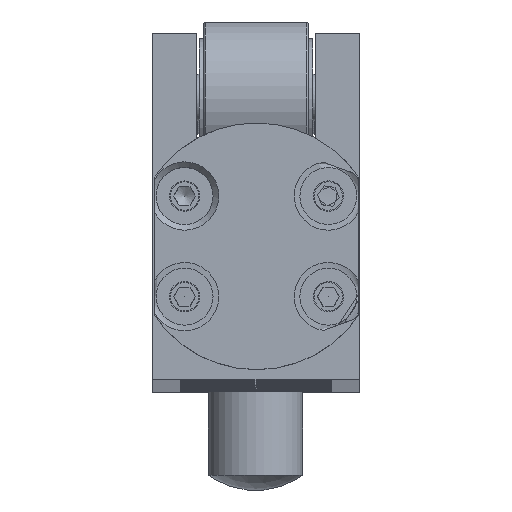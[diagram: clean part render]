
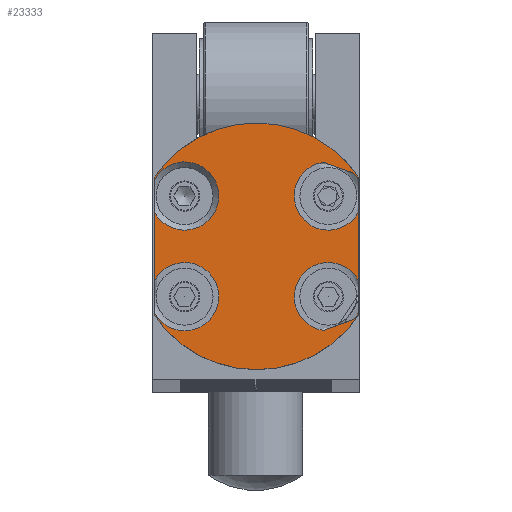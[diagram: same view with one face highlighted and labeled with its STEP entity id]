
A CAD part, top view. The second image highlights one B-rep face of the part: STEP entity #23333.
In plain terms, the highlighted planar face has unit normal (0, 0, 1).
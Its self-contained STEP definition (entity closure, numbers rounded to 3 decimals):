
#1990=LINE('',#42790,#2854);
#1991=LINE('',#42793,#2855);
#1992=LINE('',#42797,#2856);
#1993=LINE('',#42801,#2857);
#1994=LINE('',#42805,#2858);
#1995=LINE('',#42809,#2859);
#1996=LINE('',#42813,#2860);
#1997=LINE('',#42816,#2861);
#2854=VECTOR('',#32718,10.);
#2855=VECTOR('',#32721,10.);
#2856=VECTOR('',#32724,10.);
#2857=VECTOR('',#32727,10.);
#2858=VECTOR('',#32730,10.);
#2859=VECTOR('',#32733,10.);
#2860=VECTOR('',#32736,10.);
#2861=VECTOR('',#32739,10.);
#3285=PLANE('',#26174);
#4216=FACE_OUTER_BOUND('',#5618,.T.);
#5618=EDGE_LOOP('',(#19213,#19214,#19215,#19216,#19217,#19218,#19219,#19220,
#19221,#19222,#19223,#19224,#19225,#19226,#19227,#19228));
#7634=CIRCLE('',#26168,3.6);
#7637=CIRCLE('',#26171,3.6);
#7638=CIRCLE('',#26175,3.6);
#7639=CIRCLE('',#26176,3.6);
#7640=CIRCLE('',#26177,13.);
#7641=CIRCLE('',#26178,3.6);
#7642=CIRCLE('',#26179,3.6);
#7643=CIRCLE('',#26180,13.);
#10090=VERTEX_POINT('',#42766);
#10091=VERTEX_POINT('',#42767);
#10092=VERTEX_POINT('',#42771);
#10096=VERTEX_POINT('',#42782);
#10097=VERTEX_POINT('',#42792);
#10098=VERTEX_POINT('',#42794);
#10099=VERTEX_POINT('',#42796);
#10100=VERTEX_POINT('',#42798);
#10101=VERTEX_POINT('',#42800);
#10102=VERTEX_POINT('',#42802);
#10103=VERTEX_POINT('',#42804);
#10104=VERTEX_POINT('',#42806);
#10105=VERTEX_POINT('',#42808);
#10106=VERTEX_POINT('',#42810);
#10107=VERTEX_POINT('',#42812);
#10108=VERTEX_POINT('',#42814);
#13293=EDGE_CURVE('',#10092,#10090,#7634,.T.);
#13299=EDGE_CURVE('',#10091,#10096,#7637,.T.);
#13301=EDGE_CURVE('',#10096,#10092,#1990,.T.);
#13302=EDGE_CURVE('',#10090,#10097,#1991,.T.);
#13303=EDGE_CURVE('',#10097,#10098,#7638,.T.);
#13304=EDGE_CURVE('',#10098,#10099,#1992,.T.);
#13305=EDGE_CURVE('',#10099,#10100,#7639,.T.);
#13306=EDGE_CURVE('',#10100,#10101,#1993,.T.);
#13307=EDGE_CURVE('',#10102,#10101,#7640,.T.);
#13308=EDGE_CURVE('',#10102,#10103,#1994,.T.);
#13309=EDGE_CURVE('',#10103,#10104,#7641,.T.);
#13310=EDGE_CURVE('',#10104,#10105,#1995,.T.);
#13311=EDGE_CURVE('',#10105,#10106,#7642,.T.);
#13312=EDGE_CURVE('',#10106,#10107,#1996,.T.);
#13313=EDGE_CURVE('',#10108,#10107,#7643,.T.);
#13314=EDGE_CURVE('',#10108,#10091,#1997,.T.);
#19213=ORIENTED_EDGE('',*,*,#13299,.T.);
#19214=ORIENTED_EDGE('',*,*,#13301,.T.);
#19215=ORIENTED_EDGE('',*,*,#13293,.T.);
#19216=ORIENTED_EDGE('',*,*,#13302,.T.);
#19217=ORIENTED_EDGE('',*,*,#13303,.T.);
#19218=ORIENTED_EDGE('',*,*,#13304,.T.);
#19219=ORIENTED_EDGE('',*,*,#13305,.T.);
#19220=ORIENTED_EDGE('',*,*,#13306,.T.);
#19221=ORIENTED_EDGE('',*,*,#13307,.F.);
#19222=ORIENTED_EDGE('',*,*,#13308,.T.);
#19223=ORIENTED_EDGE('',*,*,#13309,.T.);
#19224=ORIENTED_EDGE('',*,*,#13310,.T.);
#19225=ORIENTED_EDGE('',*,*,#13311,.T.);
#19226=ORIENTED_EDGE('',*,*,#13312,.T.);
#19227=ORIENTED_EDGE('',*,*,#13313,.F.);
#19228=ORIENTED_EDGE('',*,*,#13314,.T.);
#23333=ADVANCED_FACE('',(#4216),#3285,.T.);
#26168=AXIS2_PLACEMENT_3D('',#42772,#32704,#32705);
#26171=AXIS2_PLACEMENT_3D('',#42786,#32711,#32712);
#26174=AXIS2_PLACEMENT_3D('',#42791,#32719,#32720);
#26175=AXIS2_PLACEMENT_3D('',#42795,#32722,#32723);
#26176=AXIS2_PLACEMENT_3D('',#42799,#32725,#32726);
#26177=AXIS2_PLACEMENT_3D('',#42803,#32728,#32729);
#26178=AXIS2_PLACEMENT_3D('',#42807,#32731,#32732);
#26179=AXIS2_PLACEMENT_3D('',#42811,#32734,#32735);
#26180=AXIS2_PLACEMENT_3D('',#42815,#32737,#32738);
#32704=DIRECTION('center_axis',(0.,0.,
-1.));
#32705=DIRECTION('ref_axis',(-0.342,0.94,0.));
#32711=DIRECTION('center_axis',(0.,0.,
-1.));
#32712=DIRECTION('ref_axis',(-0.342,0.94,0.));
#32718=DIRECTION('',(-0.94,-0.342,0.));
#32719=DIRECTION('center_axis',(0.,0.,
1.));
#32720=DIRECTION('ref_axis',(1.,0.,0.));
#32721=DIRECTION('',(0.,1.,0.));
#32722=DIRECTION('center_axis',(0.,0.,
-1.));
#32723=DIRECTION('ref_axis',(-0.342,-0.94,0.));
#32724=DIRECTION('',(0.94,-0.342,0.));
#32725=DIRECTION('center_axis',(0.,0.,
-1.));
#32726=DIRECTION('ref_axis',(-0.342,-0.94,0.));
#32727=DIRECTION('',(0.,1.,0.));
#32728=DIRECTION('center_axis',(0.,0.,
-1.));
#32729=DIRECTION('ref_axis',(0.,1.,0.));
#32730=DIRECTION('',(0.,-1.,0.));
#32731=DIRECTION('center_axis',(0.,0.,
-1.));
#32732=DIRECTION('ref_axis',(1.,0.,0.));
#32733=DIRECTION('',(0.,-1.,0.));
#32734=DIRECTION('center_axis',(0.,0.,
-1.));
#32735=DIRECTION('ref_axis',(1.,0.,0.));
#32736=DIRECTION('',(0.,-1.,0.));
#32737=DIRECTION('center_axis',(0.,0.,
-1.));
#32738=DIRECTION('ref_axis',(0.,1.,0.));
#32739=DIRECTION('',(0.,1.,0.));
#42766=CARTESIAN_POINT('',(10.8,-7.855,406.));
#42767=CARTESIAN_POINT('',(10.8,-11.256,406.));
#42771=CARTESIAN_POINT('',(7.114,-13.119,406.));
#42772=CARTESIAN_POINT('Origin',(7.627,-9.556,406.));
#42782=CARTESIAN_POINT('',(10.311,-11.955,406.));
#42786=CARTESIAN_POINT('Origin',(7.627,-9.556,406.));
#42790=CARTESIAN_POINT('',(8.206,-12.721,406.));
#42791=CARTESIAN_POINT('Origin',(0.05,2.25,406.));
#42792=CARTESIAN_POINT('',(10.8,-0.645,406.));
#42793=CARTESIAN_POINT('',(10.8,-4.655,406.));
#42794=CARTESIAN_POINT('',(7.114,4.619,406.));
#42795=CARTESIAN_POINT('Origin',(7.627,1.056,406.));
#42796=CARTESIAN_POINT('',(10.311,3.455,406.));
#42797=CARTESIAN_POINT('',(6.117,4.982,406.));
#42798=CARTESIAN_POINT('',(10.8,2.756,406.));
#42799=CARTESIAN_POINT('Origin',(7.627,1.056,406.));
#42800=CARTESIAN_POINT('',(10.8,3.06,406.));
#42801=CARTESIAN_POINT('',(10.8,-4.655,406.));
#42802=CARTESIAN_POINT('',(-10.7,3.06,406.));
#42803=CARTESIAN_POINT('Origin',(0.05,-4.25,406.));
#42804=CARTESIAN_POINT('',(-10.7,2.756,406.));
#42805=CARTESIAN_POINT('',(-10.7,2.655,406.));
#42806=CARTESIAN_POINT('',(-10.7,-0.645,406.));
#42807=CARTESIAN_POINT('Origin',(-7.527,1.056,406.));
#42808=CARTESIAN_POINT('',(-10.7,-7.855,406.));
#42809=CARTESIAN_POINT('',(-10.7,2.655,406.));
#42810=CARTESIAN_POINT('',(-10.7,-11.256,406.));
#42811=CARTESIAN_POINT('Origin',(-7.527,-9.556,406.));
#42812=CARTESIAN_POINT('',(-10.7,-11.56,406.));
#42813=CARTESIAN_POINT('',(-10.7,2.655,406.));
#42814=CARTESIAN_POINT('',(10.8,-11.56,406.));
#42815=CARTESIAN_POINT('Origin',(0.05,-4.25,406.));
#42816=CARTESIAN_POINT('',(10.8,-4.655,406.));
